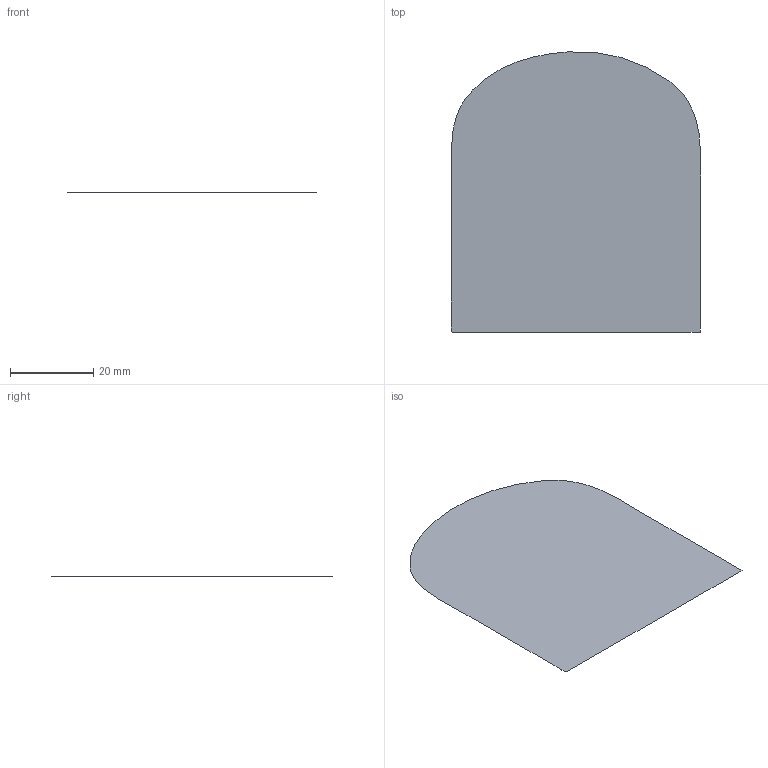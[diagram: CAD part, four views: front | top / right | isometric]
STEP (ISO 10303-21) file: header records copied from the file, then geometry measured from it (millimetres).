
FILE_DESCRIPTION(('Open CASCADE Model'),'2;1');
FILE_NAME('Open CASCADE Shape Model','2026-10-15T19:57:19',('Author'),( 'Open CASCADE'),'Open CASCADE STEP processor 7.9','Open CASCADE 7.9' ,'Unknown');
FILE_SCHEMA(('AUTOMOTIVE_DESIGN { 1 0 10303 214 1 1 1 1 }'));
Length unit declared in the file: millimetre
Products named in the file (1): Open CASCADE STEP translator 7.9 5
Bounding box: 60.21 x 67.5 x 0 mm (x, y, z)
Surface area: 3781 mm2 (no closed solid volume)
Topology: 0 solids, 1 shells, 1 faces, 15 edges, 15 vertices
Faces by surface type: plane 1
Entity records: 256 total; most frequent: CARTESIAN_POINT 69, DIRECTION 27, LINE 20, VECTOR 20, ORIENTED_EDGE 15, EDGE_CURVE 15, VERTEX_POINT 15, SURFACE_CURVE 15
